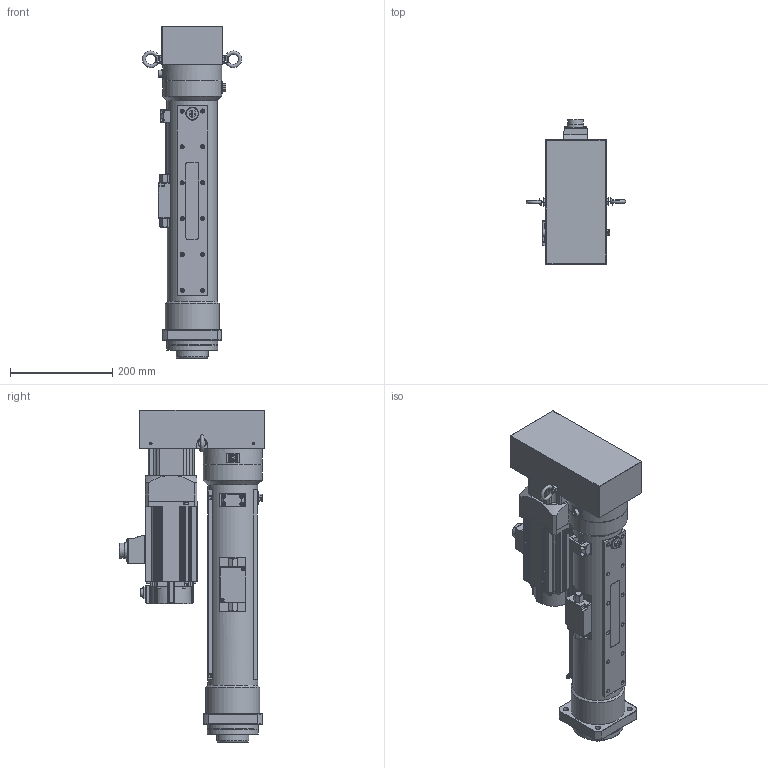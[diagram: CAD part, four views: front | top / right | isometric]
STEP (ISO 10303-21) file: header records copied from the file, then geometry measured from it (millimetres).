
FILE_DESCRIPTION(/* description */ (''),/* implementation_level */ '2;1');
FILE_NAME(/* name */ 'Z:\07.Product\01.Design\3D\1.P-All\OAICS-P\0000.Assembly\OACIS-P020,P030-300-200-A6V200.stp',/* time_stamp */ '2023-03-03T10:43:24+09:00',/* author */ ('magic'),/* organization */ (''),/* preprocessor_version */ 'ST-DEVELOPER v17',/* originating_system */ 'Autodesk Inventor 2019',/* authorisation */ '');
FILE_SCHEMA (('AUTOMOTIVE_DESIGN { 1 0 10303 214 3 1 1 }'));
Products named in the file (1): OACIS-P030-300-200-A6
Bounding box: 193.9 x 283.44 x 648 mm (x, y, z)
Volume: 6832887.7 mm3; surface area: 949114.5 mm2
Topology: 3 solids, 3 shells, 2245 faces, 5981 edges, 3943 vertices
Faces by surface type: plane 1009, cylinder 768, cone 246, bspline 108, sphere 60, torus 54
Full cylindrical faces by diameter (mm): 1 x6, 3.242 x40, 4.134 x4, 4.5 x36, 4.917 x19, 5 x2, 5.8 x2, 6.5 x2, 6.6 x10, 6.647 x8, 6.75 x4, 6.8 x1, 7 x12, 7.2 x2, 7.24 x2, 7.8 x2, 8 x48, 8.376 x8, 8.4 x1, 8.7 x1, 9 x12, 9.188 x1, 11 x4, 14 x9, 14.8 x1, 16.376 x1, 18 x1, 22 x1, 25 x1, 25.4 x2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
Entity records: 83240 total; most frequent: CARTESIAN_POINT 24165, DIRECTION 12076, ORIENTED_EDGE 11726, EDGE_CURVE 5863, AXIS2_PLACEMENT_3D 4546, VERTEX_POINT 3943, LINE 2984, VECTOR 2984
